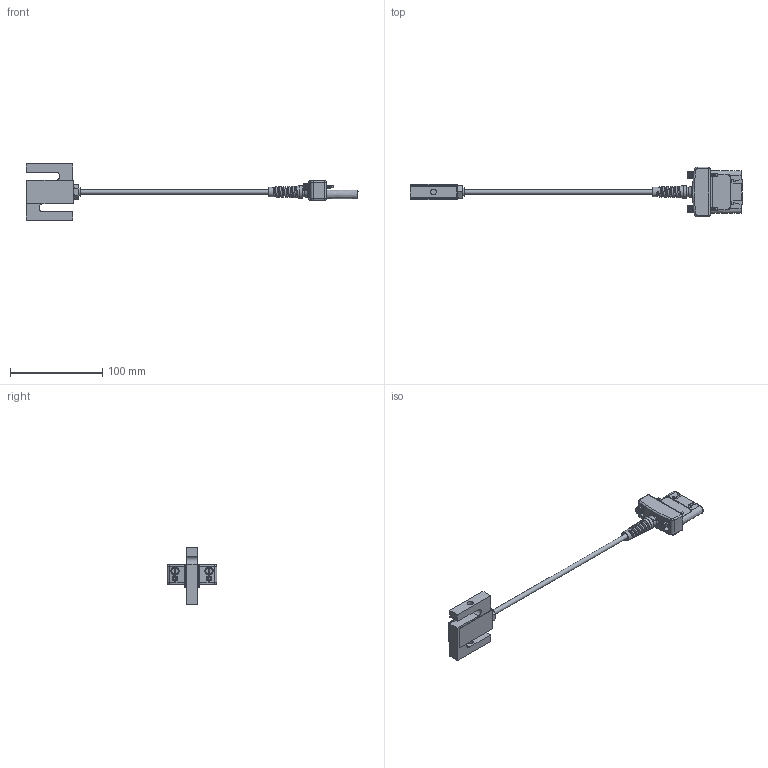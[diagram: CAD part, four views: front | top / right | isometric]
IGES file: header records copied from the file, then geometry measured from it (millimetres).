
Global section: file name: MR07_SENSOR; native system: Autodesk RealDWG; preprocessor: Autodesk Translation Framework DWG producer (atf_dwg_producer); organization: unknown; date: 20210208.145351; units: inch
Bounding box: 360.59 x 54.02 x 60.96 mm (x, y, z)
Volume: 73834 mm3; surface area: 32102.5 mm2
Topology: 1 solids, 1 shells, 770 faces, 2120 edges, 1383 vertices
Faces by surface type: bspline 770
